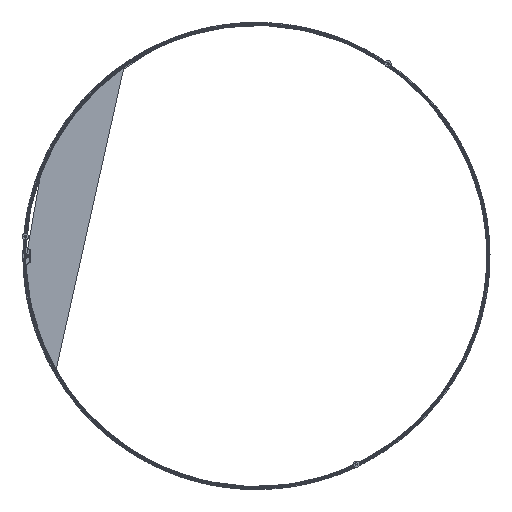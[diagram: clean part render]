
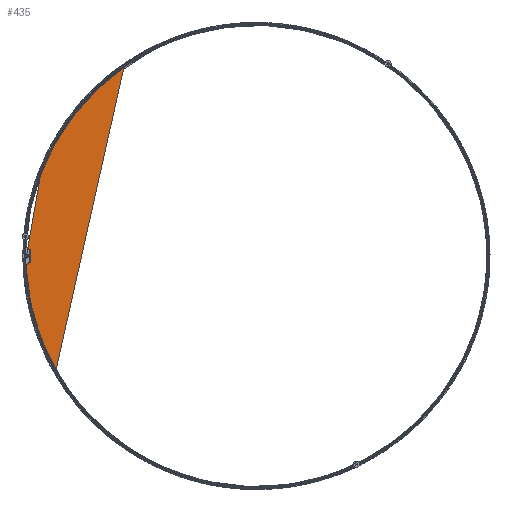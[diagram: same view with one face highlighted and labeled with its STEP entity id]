
A CAD part, top view. The second image highlights one B-rep face of the part: STEP entity #435.
In plain terms, the highlighted planar face has unit normal (0, 0, 1) as drawn and (0, 1, 0) by its records, which use the part's own axes.
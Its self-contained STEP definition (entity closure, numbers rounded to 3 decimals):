
#435=ADVANCED_FACE('',(#856),#6235,.T.);
#856=FACE_OUTER_BOUND('',#1290,.T.);
#1290=EDGE_LOOP('',(#2817,#2818,#2819,#2820,#2821,#2822,#2823,#2824));
#2817=ORIENTED_EDGE('',*,*,#4224,.T.);
#2818=ORIENTED_EDGE('',*,*,#4047,.T.);
#2819=ORIENTED_EDGE('',*,*,#4043,.T.);
#2820=ORIENTED_EDGE('',*,*,#4223,.T.);
#2821=ORIENTED_EDGE('',*,*,#4051,.T.);
#2822=ORIENTED_EDGE('',*,*,#4055,.F.);
#2823=ORIENTED_EDGE('',*,*,#4222,.F.);
#2824=ORIENTED_EDGE('',*,*,#4228,.T.);
#4043=EDGE_CURVE('',#5910,#5911,#5351,.T.);
#4047=EDGE_CURVE('',#5913,#5910,#5353,.T.);
#4051=EDGE_CURVE('',#5915,#5916,#5356,.T.);
#4055=EDGE_CURVE('',#5919,#5916,#5360,.T.);
#4222=EDGE_CURVE('',#6018,#5919,#5484,.T.);
#4223=EDGE_CURVE('',#5911,#5915,#4777,.T.);
#4224=EDGE_CURVE('',#6019,#5913,#5485,.T.);
#4228=EDGE_CURVE('',#6018,#6019,#4780,.T.);
#4777=B_SPLINE_CURVE_WITH_KNOTS('',1,(#22170,#22171),.UNSPECIFIED.,.F.,
 .F.,(2,2),(0.,1.),.UNSPECIFIED.);
#4780=B_SPLINE_CURVE_WITH_KNOTS('',1,(#22182,#22183),.UNSPECIFIED.,.F.,
 .F.,(2,2),(-1.,0.),.UNSPECIFIED.);
#5351=(
BOUNDED_CURVE()
B_SPLINE_CURVE(2,(#21606,#21607,#21608),.UNSPECIFIED.,.F.,.F.)
B_SPLINE_CURVE_WITH_KNOTS((3,3),(-1132.544,0.),.UNSPECIFIED.)
CURVE()
GEOMETRIC_REPRESENTATION_ITEM()
RATIONAL_B_SPLINE_CURVE((1.,0.707,1.))
REPRESENTATION_ITEM('')
);
#5353=(
BOUNDED_CURVE()
B_SPLINE_CURVE(2,(#21616,#21617,#21618,#21619,#21620),.UNSPECIFIED.,.F.,
 .F.)
B_SPLINE_CURVE_WITH_KNOTS((3,2,3),(-2265.088,-1132.544,
0.),.UNSPECIFIED.)
CURVE()
GEOMETRIC_REPRESENTATION_ITEM()
RATIONAL_B_SPLINE_CURVE((1.,0.707,1.,0.707,1.))
REPRESENTATION_ITEM('')
);
#5356=(
BOUNDED_CURVE()
B_SPLINE_CURVE(2,(#21629,#21630,#21631),.UNSPECIFIED.,.F.,.F.)
B_SPLINE_CURVE_WITH_KNOTS((3,3),(-1130.973,0.),.UNSPECIFIED.)
CURVE()
GEOMETRIC_REPRESENTATION_ITEM()
RATIONAL_B_SPLINE_CURVE((1.,0.707,1.))
REPRESENTATION_ITEM('')
);
#5360=(
BOUNDED_CURVE()
B_SPLINE_CURVE(2,(#21643,#21644,#21645,#21646,#21647),.UNSPECIFIED.,.F.,
 .F.)
B_SPLINE_CURVE_WITH_KNOTS((3,2,3),(2261.947,3392.92,4523.893),
 .UNSPECIFIED.)
CURVE()
GEOMETRIC_REPRESENTATION_ITEM()
RATIONAL_B_SPLINE_CURVE((1.,0.707,1.,0.707,1.))
REPRESENTATION_ITEM('')
);
#5484=(
BOUNDED_CURVE()
B_SPLINE_CURVE(2,(#22167,#22168,#22169),.UNSPECIFIED.,.F.,.F.)
B_SPLINE_CURVE_WITH_KNOTS((3,3),(3443.186,4523.893),
 .UNSPECIFIED.)
CURVE()
GEOMETRIC_REPRESENTATION_ITEM()
RATIONAL_B_SPLINE_CURVE((1.,0.731,1.))
REPRESENTATION_ITEM('')
);
#5485=(
BOUNDED_CURVE()
B_SPLINE_CURVE(2,(#22172,#22173,#22174),.UNSPECIFIED.,.F.,.F.)
B_SPLINE_CURVE_WITH_KNOTS((3,3),(-1082.209,0.),.UNSPECIFIED.)
CURVE()
GEOMETRIC_REPRESENTATION_ITEM()
RATIONAL_B_SPLINE_CURVE((1.,0.731,1.))
REPRESENTATION_ITEM('')
);
#5910=VERTEX_POINT('',#21454);
#5911=VERTEX_POINT('',#21455);
#5913=VERTEX_POINT('',#21457);
#5915=VERTEX_POINT('',#21459);
#5916=VERTEX_POINT('',#21460);
#5919=VERTEX_POINT('',#21463);
#6018=VERTEX_POINT('',#21562);
#6019=VERTEX_POINT('',#21563);
#6235=PLANE('',#6841);
#6841=AXIS2_PLACEMENT_3D('',#21324,#6997,$);
#6997=DIRECTION('',(0.,1.,0.));
#21324=CARTESIAN_POINT('',(-865.2,7.5,-865.2));
#21454=CARTESIAN_POINT('',(0.,7.5,-721.));
#21455=CARTESIAN_POINT('',(-721.,7.5,0.));
#21457=CARTESIAN_POINT('',(0.,7.5,721.));
#21459=CARTESIAN_POINT('',(-720.,7.5,0.));
#21460=CARTESIAN_POINT('',(0.,7.5,-720.));
#21463=CARTESIAN_POINT('',(0.,7.5,720.));
#21562=CARTESIAN_POINT('',(-718.246,7.5,50.225));
#21563=CARTESIAN_POINT('',(-719.244,7.5,50.294));
#21606=CARTESIAN_POINT('',(0.,7.5,-721.));
#21607=CARTESIAN_POINT('',(-721.,7.5,-721.));
#21608=CARTESIAN_POINT('',(-721.,7.5,0.));
#21616=CARTESIAN_POINT('',(0.,7.5,721.));
#21617=CARTESIAN_POINT('',(721.,7.5,721.));
#21618=CARTESIAN_POINT('',(721.,7.5,0.));
#21619=CARTESIAN_POINT('',(721.,7.5,-721.));
#21620=CARTESIAN_POINT('',(0.,7.5,-721.));
#21629=CARTESIAN_POINT('',(-720.,7.5,0.));
#21630=CARTESIAN_POINT('',(-720.,7.5,-720.));
#21631=CARTESIAN_POINT('',(0.,7.5,-720.));
#21643=CARTESIAN_POINT('',(0.,7.5,720.));
#21644=CARTESIAN_POINT('',(720.,7.5,720.));
#21645=CARTESIAN_POINT('',(720.,7.5,0.));
#21646=CARTESIAN_POINT('',(720.,7.5,-720.));
#21647=CARTESIAN_POINT('',(0.,7.5,-720.));
#22167=CARTESIAN_POINT('',(-718.246,7.5,50.225));
#22168=CARTESIAN_POINT('',(-671.411,7.5,720.));
#22169=CARTESIAN_POINT('',(0.,7.5,720.));
#22170=CARTESIAN_POINT('',(-721.,7.5,0.));
#22171=CARTESIAN_POINT('',(-720.,7.5,0.));
#22172=CARTESIAN_POINT('',(-719.244,7.5,50.294));
#22173=CARTESIAN_POINT('',(-672.343,7.5,721.));
#22174=CARTESIAN_POINT('',(0.,7.5,721.));
#22182=CARTESIAN_POINT('',(-718.246,7.5,50.225));
#22183=CARTESIAN_POINT('',(-719.244,7.5,50.294));
